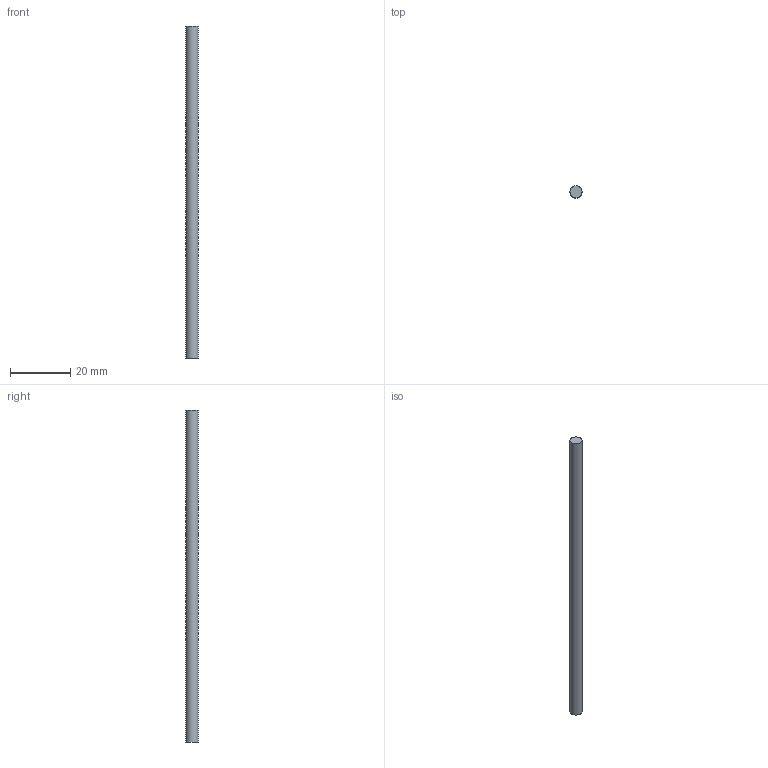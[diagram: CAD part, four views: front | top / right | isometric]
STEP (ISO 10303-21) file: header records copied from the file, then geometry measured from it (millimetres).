
FILE_DESCRIPTION(/* description */ ('STEP AP242 Edition 2','CAx-IF Rec.Pracs.---Representation and Presentation of Product Manufacturing Information (PMI)---4.0---2014-10-13','CAx-IF Rec.Pracs.---3D Tessellated Geometry---0.4---2014-09-14','2;1','CAx-IF Rec.Pracs.---User Defined Attributes---1.5---2016-08-15'),/* implementation_level */ '2;1');
FILE_NAME(/* name */ '695aff23d13f1a023388954c',/* time_stamp */ '2026-01-05T00:00:35Z',/* author */ (''),/* organization */ (''),/* preprocessor_version */ 'ST-DEVELOPER v20',/* originating_system */ 'ONSHAPE BY PTC INC, 1.208',/* authorisation */ ' ');
FILE_SCHEMA (('AP242_MANAGED_MODEL_BASED_3D_ENGINEERING_MIM_LF { 1 0 10303 442 3 1 4 }'));
Length unit declared in the file: metre
Products named in the file (1): Part 1
Bounding box: 4 x 4 x 110 mm (x, y, z)
Volume: 1382.3 mm3; surface area: 1407.4 mm2
Topology: 1 solids, 1 shells, 3 faces, 3 edges, 2 vertices
Faces by surface type: plane 2, cylinder 1
Full cylindrical faces by diameter (mm): 4 x1
Entity records: 76 total; most frequent: DIRECTION 12, CARTESIAN_POINT 8, AXIS2_PLACEMENT_3D 6, ORIENTED_EDGE 4, EDGE_LOOP 4, FACE_BOUND 4, ADVANCED_FACE 3, PLANE 2
